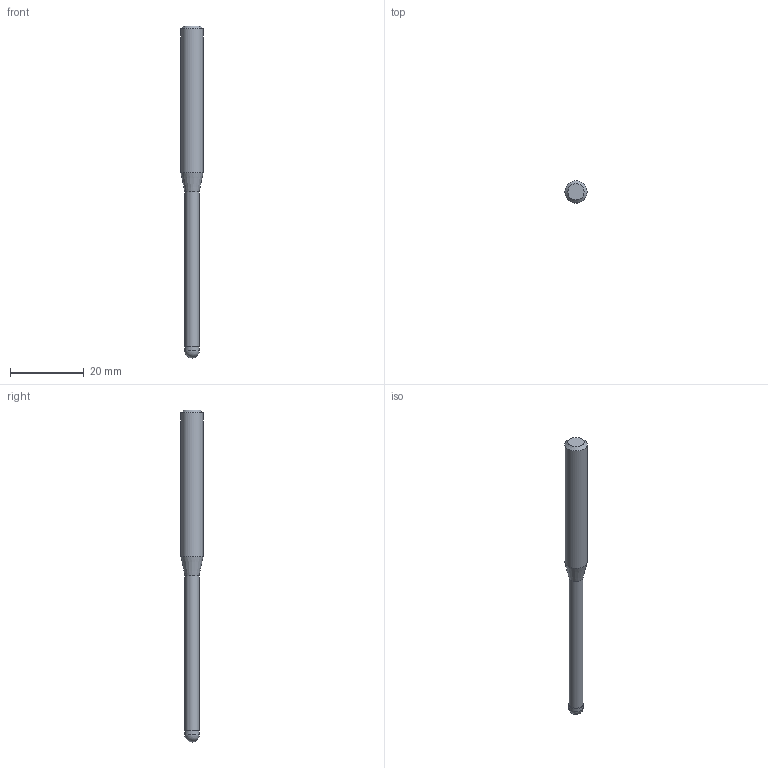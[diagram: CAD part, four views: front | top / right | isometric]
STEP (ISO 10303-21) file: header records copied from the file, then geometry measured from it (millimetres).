
FILE_DESCRIPTION((''),'2;1');
FILE_NAME('C:\Users\nsx150\AppData\Local\Temp\Mastercam 2021\3SYKECWX22\TEMP.step','2021-04-22T10:05:35',(''),(''),'STEP Write','Mastercam 2021 ... CNC Software, Inc.','');
FILE_SCHEMA(('AUTOMOTIVE_DESIGN'));
Length unit declared in the file: millimetre
Products named in the file (1): None
Bounding box: 6 x 6 x 90 mm (x, y, z)
Volume: 1725.4 mm3; surface area: 1413.7 mm2
Topology: 2 solids, 2 shells, 9 faces, 14 edges, 8 vertices
Faces by surface type: plane 3, cylinder 3, cone 2, sphere 1
Full cylindrical faces by diameter (mm): 3.8 x1, 4 x1, 6 x1
Entity records: 211 total; most frequent: DIRECTION 36, CARTESIAN_POINT 25, AXIS2_PLACEMENT_3D 18, ORIENTED_EDGE 14, EDGE_LOOP 14, STYLED_ITEM 12, ADVANCED_FACE 9, FACE_BOUND 8
